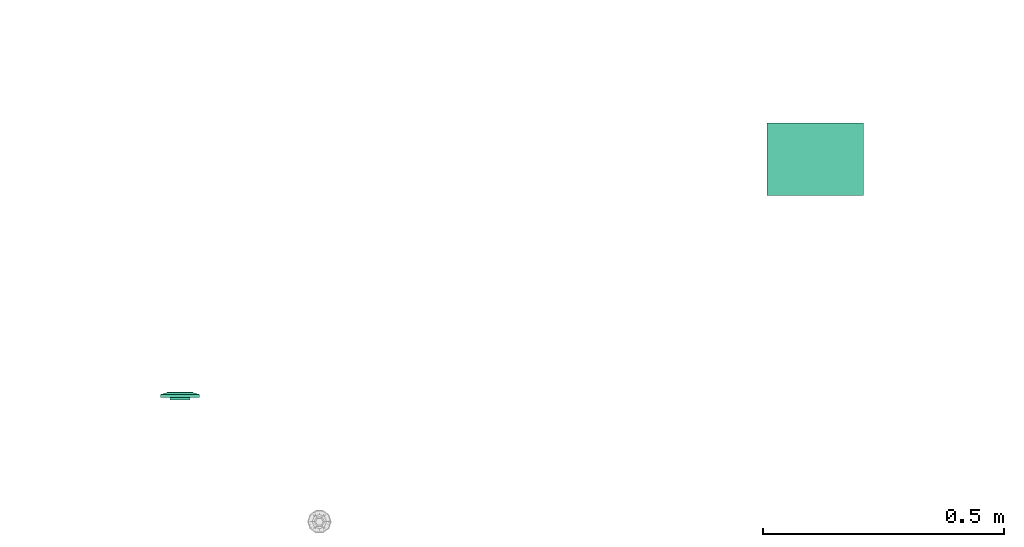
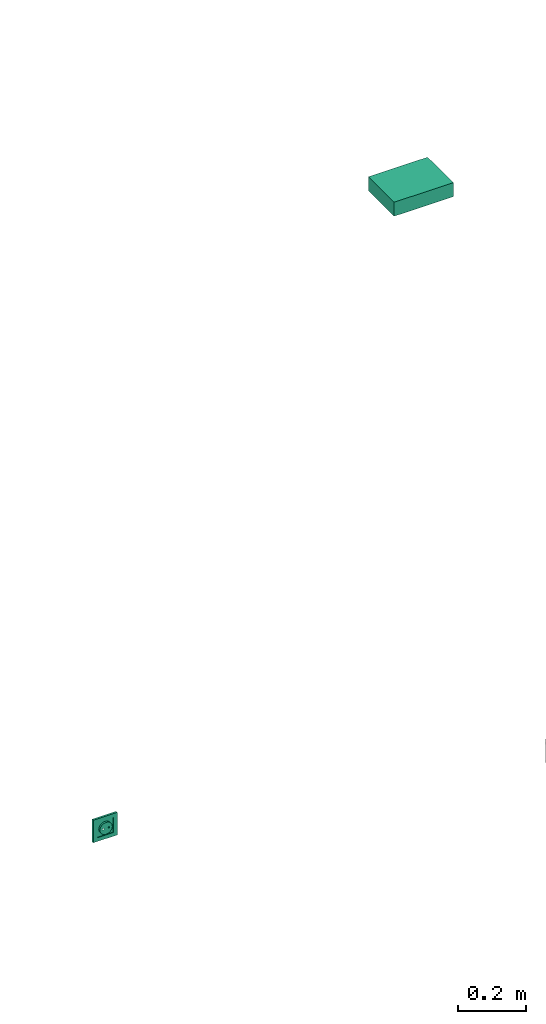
# One storey, part 60 of 146: 1 distribution control element, 1 flow terminal.
"""IFC2X3 building model written with IfcOpenShell, lengths in metres."""

from ifc_helpers import new_model, entity, si_unit, converted_unit, derived_unit, direction, frame, frame_2d, origin, place, context, subcontext, project, spatial, rectangle, extrude, face_set, surface_model, source, transform, mapped, type_object, type_shapes, element, save


model = new_model("IFC2X3")

# Units and contexts
model_context = context("Model", 3, precision=1e-05, world=origin(), true_north=direction((6.12303176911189e-17, 1.0)))
body_context = subcontext(model_context, "Body", "Model", "MODEL_VIEW")
ifc_project = project(units=[si_unit("LENGTHUNIT", "METRE"), si_unit("AREAUNIT", "SQUARE_METRE"), si_unit("VOLUMEUNIT", "CUBIC_METRE"), converted_unit("PLANEANGLEUNIT", "DEGREE", entity("IfcRatioMeasure", 0.0174532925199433), si_unit("PLANEANGLEUNIT", "RADIAN"), dimensions=[0, 0, 0, 0, 0, 0, 0]), si_unit("MASSUNIT", "GRAM", prefix="KILO"), derived_unit("MASSDENSITYUNIT", [(si_unit("MASSUNIT", "GRAM", prefix="KILO"), 1), (si_unit("LENGTHUNIT", "METRE"), -3)]), si_unit("TIMEUNIT", "SECOND"), si_unit("FREQUENCYUNIT", "HERTZ"), si_unit("THERMODYNAMICTEMPERATUREUNIT", "DEGREE_CELSIUS"), derived_unit("THERMALTRANSMITTANCEUNIT", [(si_unit("MASSUNIT", "GRAM", prefix="KILO"), 1), (si_unit("THERMODYNAMICTEMPERATUREUNIT", "KELVIN"), -1), (si_unit("TIMEUNIT", "SECOND"), -3)]), derived_unit("VOLUMETRICFLOWRATEUNIT", [(si_unit("LENGTHUNIT", "METRE"), 3), (si_unit("TIMEUNIT", "SECOND"), -1)]), si_unit("ELECTRICCURRENTUNIT", "AMPERE"), si_unit("ELECTRICVOLTAGEUNIT", "VOLT"), si_unit("POWERUNIT", "WATT"), si_unit("FORCEUNIT", "NEWTON"), si_unit("ILLUMINANCEUNIT", "LUX"), si_unit("LUMINOUSFLUXUNIT", "LUMEN"), si_unit("LUMINOUSINTENSITYUNIT", "CANDELA"), derived_unit("USERDEFINED", [(si_unit("MASSUNIT", "GRAM", prefix="KILO"), -1), (si_unit("LENGTHUNIT", "METRE"), -2), (si_unit("TIMEUNIT", "SECOND"), 3), (si_unit("LUMINOUSFLUXUNIT", "LUMEN"), 1)]), derived_unit("LINEARVELOCITYUNIT", [(si_unit("LENGTHUNIT", "METRE"), 1), (si_unit("TIMEUNIT", "SECOND"), -1)]), si_unit("PRESSUREUNIT", "PASCAL"), derived_unit("USERDEFINED", [(si_unit("LENGTHUNIT", "METRE"), -2), (si_unit("MASSUNIT", "GRAM", prefix="KILO"), 1), (si_unit("TIMEUNIT", "SECOND"), -2)])], contexts=[model_context])

# Site, building, storey
site_placement = place(None, origin())
site = spatial("IfcSite", under=ifc_project, at=site_placement, Name="Default", CompositionType="ELEMENT")
building_placement = place(site_placement, origin())
building = spatial("IfcBuilding", under=site, at=building_placement, CompositionType="ELEMENT")
storey_placement = place(building_placement, origin())
storey = spatial("IfcBuildingStorey", under=building, at=storey_placement, Name="S01", CompositionType="ELEMENT", Elevation=0.0)

# Flow terminal
light_fixture_type = type_object("IfcLightFixtureType", Name="Attente", PredefinedType="NOTDEFINED")
shared_shape_1 = source(origin(), body_context, "Body", "SurfaceModel", [
    surface_model("IfcFaceBasedSurfaceModel", [(0.00225000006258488, 0.00949633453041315, 0.0127499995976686), (0.0, 0.00949633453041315, 0.0104999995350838), (0.0, 0.0101656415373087, 0.0115376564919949), (0.0, 0.0101656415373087, 0.0139623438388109), (0.0, 0.00984531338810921, 0.0144589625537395), (0.0, 0.0102778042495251, 0.0121178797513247), (0.0, 0.0102778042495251, 0.0133821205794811), (0.0, 0.010399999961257, 0.0127499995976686), (0.0, 0.00949633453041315, 0.0149999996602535), (-0.00225000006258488, 0.00949633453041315, 0.0127499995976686), (0.0, 0.00984531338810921, 0.0110410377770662), (0.0, 0.00949633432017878, 0.0127499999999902), (-0.0022499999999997, 0.0094963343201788, 0.0127499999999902), (-0.00217333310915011, 0.00949633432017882, 0.0121676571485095), (-0.0019485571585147, 0.00949633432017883, 0.0116249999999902), (-0.00159099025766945, 0.00949633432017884, 0.0111590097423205), (-0.00112499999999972, 0.00949633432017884, 0.0108014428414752), (-0.000582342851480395, 0.00949633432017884, 0.0105766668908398), (0.0, 0.00949633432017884, 0.0104999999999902), (0.000582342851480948, 0.00949633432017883, 0.0105766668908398), (0.00112500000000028, 0.00949633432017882, 0.0108014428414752), (0.00159099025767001, 0.00949633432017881, 0.0111590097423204), (0.00194855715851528, 0.00949633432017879, 0.0116249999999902), (0.0021733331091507, 0.00949633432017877, 0.0121676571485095), (0.0022500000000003, 0.00949633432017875, 0.0127499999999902), (0.00217333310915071, 0.00949633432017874, 0.0133323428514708), (0.0019485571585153, 0.00949633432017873, 0.0138749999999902), (0.00159099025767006, 0.00949633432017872, 0.0143409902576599), (0.00112500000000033, 0.00949633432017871, 0.0146985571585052), (0.000582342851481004, 0.00949633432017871, 0.0149233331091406), (0.0, 0.00949633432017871, 0.0149999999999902), (-0.000582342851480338, 0.00949633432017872, 0.0149233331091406), (-0.00112499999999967, 0.00949633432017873, 0.0146985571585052), (-0.00159099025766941, 0.00949633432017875, 0.0143409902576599), (-0.00194855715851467, 0.00949633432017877, 0.0138749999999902), (-0.00217333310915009, 0.00949633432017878, 0.0133323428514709), (-0.00224999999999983, -0.00360000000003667, 0.0127499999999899), (-0.00217333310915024, -0.00360000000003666, 0.0121676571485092), (-0.00194855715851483, -0.00360000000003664, 0.0116249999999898), (-0.00159099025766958, -0.00360000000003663, 0.0111590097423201), (-0.00112499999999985, -0.00360000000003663, 0.0108014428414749), (-0.000582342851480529, -0.00360000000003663, 0.0105766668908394), (0.0, -0.00360000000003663, 0.0104999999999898), (0.000582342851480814, -0.00360000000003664, 0.0105766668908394), (0.00112500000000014, -0.00360000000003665, 0.0108014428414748), (0.00159099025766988, -0.00360000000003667, 0.0111590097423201), (0.00194855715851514, -0.00360000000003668, 0.0116249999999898), (0.00217333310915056, -0.0036000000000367, 0.0121676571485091), (0.00225000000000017, -0.00360000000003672, 0.0127499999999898), (0.00217333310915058, -0.00360000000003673, 0.0133323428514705), (0.00194855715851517, -0.00360000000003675, 0.0138749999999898), (0.00159099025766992, -0.00360000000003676, 0.0143409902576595), (0.00112500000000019, -0.00360000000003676, 0.0146985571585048), (0.00058234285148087, -0.00360000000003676, 0.0149233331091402), (0.0, -0.00360000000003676, 0.0149999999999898), (-0.000582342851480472, -0.00360000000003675, 0.0149233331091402), (-0.0011249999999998, -0.00360000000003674, 0.0146985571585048), (-0.00159099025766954, -0.00360000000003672, 0.0143409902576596), (-0.0019485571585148, -0.00360000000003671, 0.0138749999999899), (-0.00217333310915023, -0.00360000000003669, 0.0133323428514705), (-0.0270000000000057, 0.0113999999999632, 0.0269999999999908), (0.0269999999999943, 0.0113999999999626, 0.0269999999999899), (0.0269999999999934, 0.0113999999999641, -0.0270000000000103), (-0.0270000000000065, 0.0113999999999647, -0.0270000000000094), (0.0199999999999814, 0.0113999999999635, 0.0), (0.0193185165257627, 0.0113999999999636, -0.00517638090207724), (0.0173205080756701, 0.0113999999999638, -0.0100000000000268), (0.0141421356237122, 0.0113999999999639, -0.0141421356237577), (0.00999999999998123, 0.011399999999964, -0.0173205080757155), (0.00517638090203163, 0.0113999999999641, -0.019318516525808), (0.0, 0.0113999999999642, -0.0200000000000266), (-0.00517638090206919, 0.0113999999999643, -0.0193185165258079), (-0.0100000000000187, 0.0113999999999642, -0.0173205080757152), (-0.0141421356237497, 0.0113999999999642, -0.0141421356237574), (-0.0173205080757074, 0.0113999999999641, -0.0100000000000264), (-0.0193185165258, 0.011399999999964, -0.0051763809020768), (-0.0200000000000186, 0.0113999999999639, 0.0), (-0.0193185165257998, 0.0113999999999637, 0.00517638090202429), (-0.0173205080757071, 0.0113999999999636, 0.00999999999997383), (-0.0141421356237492, 0.0113999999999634, 0.0141421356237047), (-0.0100000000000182, 0.0113999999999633, 0.0173205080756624), (-0.00517638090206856, 0.0113999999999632, 0.0193185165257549), (0.0, 0.0113999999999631, 0.0199999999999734), (0.00517638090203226, 0.0113999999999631, 0.0193185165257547), (0.0099999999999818, 0.0113999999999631, 0.017320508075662), (0.0141421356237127, 0.0113999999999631, 0.0141421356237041), (0.0173205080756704, 0.0113999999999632, 0.00999999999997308), (0.0193185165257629, 0.0113999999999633, 0.00517638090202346), (-0.0270000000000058, 0.00199999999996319, 0.0269999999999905), (-0.0270000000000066, 0.00199999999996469, -0.0270000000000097), (0.0269999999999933, 0.00199999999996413, -0.0270000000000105), (0.0269999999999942, 0.00199999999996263, 0.0269999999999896), (-0.0210000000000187, 0.00199999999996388, 0.0), (-0.0202844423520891, 0.00199999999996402, -0.00543519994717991), (-0.0181865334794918, 0.00199999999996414, -0.0105000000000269), (-0.0148492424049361, 0.00199999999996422, -0.0148492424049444), (-0.0105000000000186, 0.00199999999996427, -0.0181865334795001), (-0.00543519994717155, 0.00199999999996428, -0.0202844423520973), (0.0, 0.00199999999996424, -0.0210000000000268), (0.00543519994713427, 0.00199999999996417, -0.0202844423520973), (0.0104999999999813, 0.00199999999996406, -0.0181865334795), (0.0148492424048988, 0.00199999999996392, -0.0148492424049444), (0.0181865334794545, 0.00199999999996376, -0.0105000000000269), (0.0202844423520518, 0.0019999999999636, -0.00543519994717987), (0.0209999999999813, 0.00199999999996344, 0.0), (0.0202844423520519, 0.0019999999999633, 0.0054351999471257), (0.0181865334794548, 0.00199999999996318, 0.0104999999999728), (0.0148492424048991, 0.00199999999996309, 0.0148492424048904), (0.0104999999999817, 0.00199999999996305, 0.0181865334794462), (0.00543519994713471, 0.00199999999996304, 0.0202844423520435), (0.0, 0.00199999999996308, 0.0209999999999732), (-0.00543519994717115, 0.00199999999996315, 0.0202844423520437), (-0.0105000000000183, 0.00199999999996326, 0.0181865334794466), (-0.0148492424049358, 0.0019999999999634, 0.014849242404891), (-0.0181865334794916, 0.00199999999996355, 0.0104999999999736), (-0.020284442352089, 0.00199999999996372, 0.00543519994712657), (-0.0200000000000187, -0.00360000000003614, 0.0), (-0.0193185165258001, -0.003600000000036, -0.00517638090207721), (-0.0173205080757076, -0.00360000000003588, -0.0100000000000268), (-0.0141421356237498, -0.0036000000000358, -0.0141421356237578), (-0.0100000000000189, -0.00360000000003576, -0.0173205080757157), (-0.00517638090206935, -0.00360000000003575, -0.0193185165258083), (0.0, -0.00360000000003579, -0.020000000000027), (0.00517638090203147, -0.00360000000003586, -0.0193185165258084), (0.00999999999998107, -0.00360000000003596, -0.0173205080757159), (0.0141421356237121, -0.00360000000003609, -0.0141421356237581), (0.0173205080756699, -0.00360000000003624, -0.0100000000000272), (0.0193185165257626, -0.0036000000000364, -0.00517638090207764), (0.0199999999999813, -0.00360000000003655, 0.0), (0.0193185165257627, -0.00360000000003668, 0.00517638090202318), (0.0173205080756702, -0.0036000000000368, 0.00999999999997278), (0.0141421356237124, -0.00360000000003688, 0.0141421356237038), (0.00999999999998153, -0.00360000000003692, 0.0173205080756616), (0.00517638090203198, -0.00360000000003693, 0.0193185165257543), (0.0, -0.0036000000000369, 0.019999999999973), (-0.00517638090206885, -0.00360000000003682, 0.0193185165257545), (-0.0100000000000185, -0.00360000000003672, 0.0173205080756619), (-0.0141421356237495, -0.00360000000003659, 0.0141421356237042), (-0.0173205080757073, -0.00360000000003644, 0.00999999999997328), (-0.0193185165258, -0.00360000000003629, 0.00517638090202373), (0.0123499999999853, -0.00360000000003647, 0.0), (0.0122562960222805, -0.00360000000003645, -0.000711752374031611), (0.0119815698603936, -0.00360000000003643, -0.00137499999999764), (0.0115445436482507, -0.00360000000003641, -0.00194454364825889), (0.0109749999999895, -0.00360000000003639, -0.00238156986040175), (0.0103117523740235, -0.00360000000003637, -0.00265629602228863), (0.00959999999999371, -0.00360000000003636, -0.00274999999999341), (0.00888824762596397, -0.00360000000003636, -0.00265629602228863), (0.00822499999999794, -0.00360000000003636, -0.00238156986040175), (0.00765545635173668, -0.00360000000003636, -0.00194454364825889), (0.00721843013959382, -0.00360000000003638, -0.00137499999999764), (0.00694370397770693, -0.00360000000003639, -0.000711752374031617), (0.00685000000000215, -0.00360000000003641, 0.0), (0.00694370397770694, -0.00360000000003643, 0.000711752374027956), (0.00721843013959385, -0.00360000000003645, 0.00137499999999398), (0.00765545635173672, -0.00360000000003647, 0.00194454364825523), (0.00822499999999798, -0.00360000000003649, 0.00238156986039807), (0.00888824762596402, -0.00360000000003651, 0.00265629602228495), (0.00959999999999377, -0.00360000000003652, 0.0027499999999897), (0.0103117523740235, -0.00360000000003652, 0.00265629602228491), (0.0109749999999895, -0.00360000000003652, 0.00238156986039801), (0.0115445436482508, -0.00360000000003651, 0.00194454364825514), (0.0119815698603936, -0.0036000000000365, 0.00137499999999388), (0.0122562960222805, -0.00360000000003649, 0.000711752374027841), (-0.00685000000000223, -0.00360000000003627, 0.0), (-0.00694370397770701, -0.00360000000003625, -0.000711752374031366), (-0.0072184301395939, -0.00360000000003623, -0.00137499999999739), (-0.00765545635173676, -0.00360000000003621, -0.00194454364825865), (-0.00822499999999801, -0.00360000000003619, -0.0023815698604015), (-0.00888824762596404, -0.00360000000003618, -0.00265629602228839), (-0.00959999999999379, -0.00360000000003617, -0.00274999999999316), (-0.0103117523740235, -0.00360000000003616, -0.00265629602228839), (-0.0109749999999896, -0.00360000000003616, -0.00238156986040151), (-0.0115445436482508, -0.00360000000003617, -0.00194454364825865), (-0.0119815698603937, -0.00360000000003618, -0.0013749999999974), (-0.0122562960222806, -0.0036000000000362, -0.000711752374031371), (-0.0123499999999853, -0.00360000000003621, 0.0), (-0.0122562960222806, -0.00360000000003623, 0.000711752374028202), (-0.0119815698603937, -0.00360000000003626, 0.00137499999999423), (-0.0115445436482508, -0.00360000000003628, 0.00194454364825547), (-0.0109749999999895, -0.00360000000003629, 0.00238156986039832), (-0.0103117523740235, -0.00360000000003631, 0.00265629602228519), (-0.00959999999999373, -0.00360000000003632, 0.00274999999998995), (-0.00888824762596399, -0.00360000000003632, 0.00265629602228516), (-0.00822499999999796, -0.00360000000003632, 0.00238156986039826), (-0.00765545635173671, -0.00360000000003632, 0.00194454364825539), (-0.00721843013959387, -0.0036000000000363, 0.00137499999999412), (-0.00694370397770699, -0.00360000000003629, 0.000711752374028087), (-0.0210000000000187, -0.00460000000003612, 0.0), (-0.0202844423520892, -0.00460000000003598, -0.00543519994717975), (-0.018186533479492, -0.00460000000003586, -0.0105000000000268), (-0.0148492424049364, -0.00460000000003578, -0.0148492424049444), (-0.0105000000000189, -0.00460000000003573, -0.0181865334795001), (-0.00543519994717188, -0.00460000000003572, -0.0202844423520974), (0.0, -0.00460000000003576, -0.021000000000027), (0.00543519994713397, -0.00460000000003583, -0.0202844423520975), (0.0104999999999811, -0.00460000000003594, -0.0181865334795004), (0.0148492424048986, -0.00460000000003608, -0.0148492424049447), (0.0181865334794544, -0.00460000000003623, -0.0105000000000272), (0.0202844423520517, -0.0046000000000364, -0.0054351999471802), (0.0209999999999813, -0.00460000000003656, 0.0), (0.0202844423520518, -0.0046000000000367, 0.00543519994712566), (0.0181865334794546, -0.00460000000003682, 0.0104999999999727), (0.014849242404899, -0.00460000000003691, 0.0148492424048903), (0.0104999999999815, -0.00460000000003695, 0.0181865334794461), (0.0054351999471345, -0.00460000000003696, 0.0202844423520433), (0.0, -0.00460000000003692, 0.020999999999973), (-0.00543519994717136, -0.00460000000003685, 0.0202844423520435), (-0.0105000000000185, -0.00460000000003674, 0.0181865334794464), (-0.014849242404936, -0.0046000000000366, 0.0148492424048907), (-0.0181865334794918, -0.00460000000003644, 0.0104999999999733), (-0.0202844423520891, -0.00460000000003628, 0.00543519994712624), (0.00685000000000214, -0.00460000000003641, 0.0), (0.00694370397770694, -0.00460000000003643, 0.000711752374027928), (0.00721843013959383, -0.00460000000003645, 0.00137499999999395), (0.0076554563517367, -0.00460000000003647, 0.0019445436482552), (0.00822499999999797, -0.00460000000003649, 0.00238156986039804), (0.00888824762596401, -0.0046000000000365, 0.00265629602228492), (0.00959999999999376, -0.00460000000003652, 0.00274999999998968), (0.0103117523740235, -0.00460000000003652, 0.00265629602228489), (0.0109749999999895, -0.00460000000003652, 0.00238156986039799), (0.0115445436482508, -0.00460000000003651, 0.00194454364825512), (0.0119815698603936, -0.0046000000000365, 0.00137499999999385), (0.0122562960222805, -0.00460000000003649, 0.000711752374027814), (0.0123499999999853, -0.00460000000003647, 0.0), (0.0122562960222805, -0.00460000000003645, -0.00071175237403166), (0.0119815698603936, -0.00460000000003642, -0.00137499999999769), (0.0115445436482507, -0.0046000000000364, -0.00194454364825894), (0.0109749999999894, -0.00460000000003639, -0.00238156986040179), (0.0103117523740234, -0.00460000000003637, -0.00265629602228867), (0.00959999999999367, -0.00460000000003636, -0.00274999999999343), (0.00888824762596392, -0.00460000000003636, -0.00265629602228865), (0.00822499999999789, -0.00460000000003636, -0.00238156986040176), (0.00765545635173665, -0.00460000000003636, -0.00194454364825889), (0.00721843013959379, -0.00460000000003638, -0.00137499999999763), (0.00694370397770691, -0.00460000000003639, -0.0007117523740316), (-0.0123499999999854, -0.00460000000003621, 0.0), (-0.0122562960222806, -0.00460000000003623, 0.000711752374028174), (-0.0119815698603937, -0.00460000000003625, 0.0013749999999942), (-0.0115445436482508, -0.00460000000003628, 0.00194454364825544), (-0.0109749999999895, -0.00460000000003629, 0.00238156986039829), (-0.0103117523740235, -0.00460000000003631, 0.00265629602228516), (-0.00959999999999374, -0.00460000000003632, 0.00274999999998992), (-0.008888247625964, -0.00460000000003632, 0.00265629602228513), (-0.00822499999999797, -0.00460000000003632, 0.00238156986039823), (-0.00765545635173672, -0.00460000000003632, 0.00194454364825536), (-0.00721843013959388, -0.0046000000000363, 0.0013749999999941), (-0.006943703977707, -0.00460000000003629, 0.000711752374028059), (-0.00685000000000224, -0.00460000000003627, 0.0), (-0.00694370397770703, -0.00460000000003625, -0.000711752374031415), (-0.00721843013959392, -0.00460000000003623, -0.00137499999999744), (-0.00765545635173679, -0.00460000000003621, -0.00194454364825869), (-0.00822499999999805, -0.00460000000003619, -0.00238156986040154), (-0.00888824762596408, -0.00460000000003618, -0.00265629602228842), (-0.00959999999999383, -0.00460000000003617, -0.00274999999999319), (-0.0103117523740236, -0.00460000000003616, -0.00265629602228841), (-0.0109749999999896, -0.00460000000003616, -0.00238156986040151), (-0.0115445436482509, -0.00460000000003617, -0.00194454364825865), (-0.0119815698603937, -0.00460000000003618, -0.00137499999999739), (-0.0122562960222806, -0.00460000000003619, -0.000711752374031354), (-0.0403499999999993, 0.00659999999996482, 0.0403499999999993), (-0.0403500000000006, 0.00659999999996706, -0.0403500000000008), (0.0403499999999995, 0.00659999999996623, -0.0403500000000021), (0.0403500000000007, 0.00659999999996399, 0.040349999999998), (-0.0269999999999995, 0.00659999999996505, 0.026999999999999), (0.0270000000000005, 0.0065999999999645, 0.0269999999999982), (0.0269999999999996, 0.006599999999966, -0.0270000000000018), (-0.0270000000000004, 0.00659999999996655, -0.027000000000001), (-0.0269999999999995, 0.0103999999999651, 0.0269999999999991), (0.0270000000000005, 0.0103999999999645, 0.0269999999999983), (0.0269999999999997, 0.010399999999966, -0.0270000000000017), (-0.0270000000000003, 0.0103999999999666, -0.0270000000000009), (-0.0403499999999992, 0.00659999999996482, 0.0403499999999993), (-0.0403500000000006, 0.00659999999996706, -0.0403500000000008), (0.0403499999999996, 0.00659999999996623, -0.0403500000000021), (0.0403500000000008, 0.00659999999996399, 0.040349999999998), (0.0270000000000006, 0.0065999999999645, 0.0269999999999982), (0.0269999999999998, 0.006599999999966, -0.0270000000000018), (-0.0270000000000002, 0.00659999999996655, -0.027000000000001), (-0.0269999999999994, 0.00659999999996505, 0.026999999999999), (-0.0403499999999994, 0.0, 0.0403499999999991), (-0.0403500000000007, 0.0, -0.040350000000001), (0.0403499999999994, 0.0, -0.0403500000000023), (0.0403500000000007, 0.0, 0.0403499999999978), (-0.0269999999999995, 0.0, 0.0269999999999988), (0.0270000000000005, 0.0, 0.026999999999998), (0.0269999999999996, 0.0, -0.027000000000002), (-0.0270000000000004, 0.0, -0.0270000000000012)], [face_set([[[0, 1, 2]], [[3, 4, 2, 5]], [[6, 3, 5, 7]], [[2, 4, 0]], [[4, 8, 0]], [[3, 9, 8]], [[1, 9, 10]], [[2, 3, 6, 7]], [[3, 10, 9]], [[2, 10, 3]], [[11, 1, 0, 8]], [[11, 8, 9, 1]]]), face_set([[[12, 13, 14, 15, 16, 17, 18, 19, 20, 21, 22, 23, 24, 25, 26, 27, 28, 29, 30, 31, 32, 33, 34, 35]], [[36, 37, 38, 39, 40, 41, 42, 43, 44, 45, 46, 47, 48, 49, 50, 51, 52, 53, 54, 55, 56, 57, 58, 59]], [[48, 47, 23, 24]], [[47, 46, 22, 23]], [[45, 44, 20, 21]], [[46, 45, 21, 22]], [[44, 43, 19, 20]], [[18, 19, 43, 42]], [[42, 41, 17, 18]], [[41, 40, 16, 17]], [[39, 38, 14, 15]], [[40, 39, 15, 16]], [[38, 37, 13, 14]], [[12, 13, 37, 36]], [[36, 59, 35, 12]], [[59, 58, 34, 35]], [[57, 56, 32, 33]], [[58, 57, 33, 34]], [[56, 55, 31, 32]], [[30, 31, 55, 54]], [[54, 53, 29, 30]], [[53, 52, 28, 29]], [[51, 50, 26, 27]], [[52, 51, 27, 28]], [[50, 49, 25, 26]], [[24, 25, 49, 48]]]), face_set([[[60, 61, 62, 63], [64, 65, 66, 67, 68, 69, 70, 71, 72, 73, 74, 75, 76, 77, 78, 79, 80, 81, 82, 83, 84, 85, 86, 87]], [[88, 89, 90, 91], [92, 93, 94, 95, 96, 97, 98, 99, 100, 101, 102, 103, 104, 105, 106, 107, 108, 109, 110, 111, 112, 113, 114, 115]], [[61, 60, 88, 91]], [[62, 61, 91, 90]], [[63, 62, 90, 89]], [[60, 63, 89, 88]], [[116, 117, 118, 119, 120, 121, 122, 123, 124, 125, 126, 127, 128, 129, 130, 131, 132, 133, 134, 135, 136, 137, 138, 139], [140, 141, 142, 143, 144, 145, 146, 147, 148, 149, 150, 151, 152, 153, 154, 155, 156, 157, 158, 159, 160, 161, 162, 163], [164, 165, 166, 167, 168, 169, 170, 171, 172, 173, 174, 175, 176, 177, 178, 179, 180, 181, 182, 183, 184, 185, 186, 187]], [[64, 128, 127, 65]], [[65, 127, 126, 66]], [[67, 125, 124, 68]], [[66, 126, 125, 67]], [[68, 124, 123, 69]], [[122, 70, 69, 123]], [[70, 122, 121, 71]], [[71, 121, 120, 72]], [[73, 119, 118, 74]], [[72, 120, 119, 73]], [[74, 118, 117, 75]], [[116, 76, 75, 117]], [[76, 116, 139, 77]], [[77, 139, 138, 78]], [[79, 137, 136, 80]], [[78, 138, 137, 79]], [[80, 136, 135, 81]], [[134, 82, 81, 135]], [[82, 134, 133, 83]], [[83, 133, 132, 84]], [[84, 132, 131, 85]], [[85, 131, 130, 86]], [[130, 129, 87, 86]], [[64, 87, 129, 128]], [[188, 189, 190, 191, 192, 193, 194, 195, 196, 197, 198, 199, 200, 201, 202, 203, 204, 205, 206, 207, 208, 209, 210, 211], [212, 213, 214, 215, 216, 217, 218, 219, 220, 221, 222, 223, 224, 225, 226, 227, 228, 229, 230, 231, 232, 233, 234, 235], [236, 237, 238, 239, 240, 241, 242, 243, 244, 245, 246, 247, 248, 249, 250, 251, 252, 253, 254, 255, 256, 257, 258, 259]], [[200, 199, 103, 104]], [[199, 198, 102, 103]], [[197, 196, 100, 101]], [[198, 197, 101, 102]], [[196, 195, 99, 100]], [[98, 99, 195, 194]], [[194, 193, 97, 98]], [[193, 192, 96, 97]], [[191, 190, 94, 95]], [[192, 191, 95, 96]], [[190, 189, 93, 94]], [[92, 93, 189, 188]], [[188, 211, 115, 92]], [[211, 210, 114, 115]], [[209, 208, 112, 113]], [[210, 209, 113, 114]], [[208, 207, 111, 112]], [[110, 111, 207, 206]], [[206, 205, 109, 110]], [[205, 204, 108, 109]], [[203, 202, 106, 107]], [[204, 203, 107, 108]], [[202, 201, 105, 106]], [[104, 105, 201, 200]], [[141, 225, 226, 142]], [[140, 224, 225, 141]], [[144, 228, 229, 145]], [[143, 227, 228, 144]], [[142, 226, 227, 143]], [[230, 146, 145, 229]], [[149, 233, 232, 148]], [[148, 232, 231, 147]], [[152, 212, 235, 151]], [[151, 235, 234, 150]], [[150, 234, 233, 149]], [[146, 230, 231, 147]], [[154, 214, 213, 153]], [[153, 213, 212, 152]], [[157, 217, 216, 156]], [[156, 216, 215, 155]], [[155, 215, 214, 154]], [[218, 158, 157, 217]], [[160, 220, 221, 161]], [[159, 219, 220, 160]], [[163, 223, 224, 140]], [[162, 222, 223, 163]], [[161, 221, 222, 162]], [[158, 218, 219, 159]], [[166, 250, 249, 165]], [[165, 249, 248, 164]], [[169, 253, 252, 168]], [[168, 252, 251, 167]], [[167, 251, 250, 166]], [[254, 170, 169, 253]], [[172, 256, 257, 173]], [[171, 255, 256, 172]], [[175, 259, 236, 176]], [[174, 258, 259, 175]], [[173, 257, 258, 174]], [[170, 254, 255, 171]], [[177, 237, 238, 178]], [[176, 236, 237, 177]], [[180, 240, 241, 181]], [[179, 239, 240, 180]], [[178, 238, 239, 179]], [[242, 182, 181, 241]], [[185, 245, 244, 184]], [[184, 244, 243, 183]], [[164, 248, 247, 187]], [[187, 247, 246, 186]], [[186, 246, 245, 185]], [[182, 242, 243, 183]]]), face_set([[[260, 261, 262, 263], [264, 265, 266, 267]], [[260, 268, 269, 263]], [[263, 269, 270, 262]], [[262, 270, 271, 261]], [[261, 271, 268, 260]], [[264, 265, 269, 268]], [[265, 266, 270, 269]], [[266, 267, 271, 270]], [[268, 271, 267, 264]]]), face_set([[[272, 273, 274, 275], [276, 277, 278, 279]], [[280, 281, 282, 283], [284, 285, 286, 287]], [[275, 272, 280, 283]], [[274, 275, 283, 282]], [[273, 274, 282, 281]], [[272, 273, 281, 280]], [[284, 285, 276, 279]], [[285, 286, 277, 276]], [[286, 287, 278, 277]], [[279, 278, 287, 284]]])]),
])
type_shapes(light_fixture_type, [shared_shape_1])
flow_terminal_placement = place(storey_placement, frame((48.327243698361, -187.358488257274, 0.0)))
element("IfcFlowTerminal", 1, at=flow_terminal_placement, inside=storey, type_object=light_fixture_type, Name="INT_Attente électrique:Attente", ObjectType="INT_Attente électrique:Attente", context=body_context, shape_type="MappedRepresentation", body=[
    mapped(shared_shape_1, transform((0.0, 0.0, 0.0), scale=1.0)),
])

# Distribution control element
alarm_type = type_object("IfcAlarmType", Name="Incendie_Centrale Incendie", PredefinedType="NOTDEFINED")
shared_shape_2 = source(origin(), body_context, "Body", "SweptSolid", [
    extrude(rectangle(XDim=0.15, YDim=0.0499999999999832, at=frame_2d((0.0, -1.73472347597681e-18), x_axis=(1.0, 0.0))), frame((0.0, 0.0249999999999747, 0.0)), (0.0, 0.0, 1.0), 0.2),
])
type_shapes(alarm_type, [shared_shape_2])
distribution_control_element_placement = place(building_placement, frame((49.5422436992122, -186.865076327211, 1.50000000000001), z_axis=(1.0, 0.0, 0.0), x_axis=(0.0, 1.0, 0.0)))
element("IfcDistributionControlElement", 2, at=distribution_control_element_placement, inside=storey, type_object=alarm_type, Name="INT_Centrale Incendie:Incendie_Centrale Incendie", ObjectType="INT_Centrale Incendie:Incendie_Centrale Incendie", context=body_context, shape_type="MappedRepresentation", body=[
    mapped(shared_shape_2, transform((0.0, 0.0, 0.0), scale=1.0)),
])

save(model, "model.ifc")
